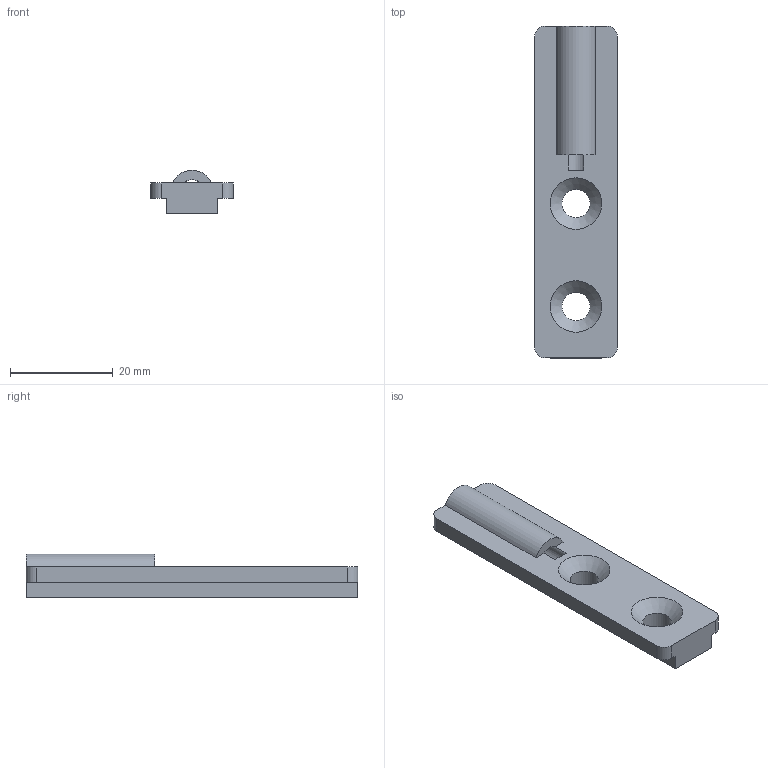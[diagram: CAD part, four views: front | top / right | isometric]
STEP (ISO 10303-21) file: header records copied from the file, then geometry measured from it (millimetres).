
FILE_DESCRIPTION(('Open CASCADE Model'),'2;1');
FILE_NAME('TubeHolder','2026-06-25T14:49:39',('Author'),('Open CASCADE') ,'Open CASCADE STEP processor 7.8','build123d','Unknown');
FILE_SCHEMA(('AUTOMOTIVE_DESIGN { 1 0 10303 214 1 1 1 1 }'));
Length unit declared in the file: millimetre
Products named in the file (1): TubeHolder
Bounding box: 16 x 64.5 x 8.5 mm (x, y, z)
Volume: 4557.3 mm3; surface area: 3491.4 mm2
Topology: 1 solids, 1 shells, 22 faces, 61 edges, 40 vertices
Faces by surface type: plane 12, cylinder 8, cone 2
Full cylindrical faces by diameter (mm): 4.3 x1, 5.5 x2
Entity records: 1540 total; most frequent: CARTESIAN_POINT 320, DIRECTION 225, LINE 131, VECTOR 131, ORIENTED_EDGE 122, PCURVE 122, DEFINITIONAL_REPRESENTATION 122, EDGE_CURVE 61
